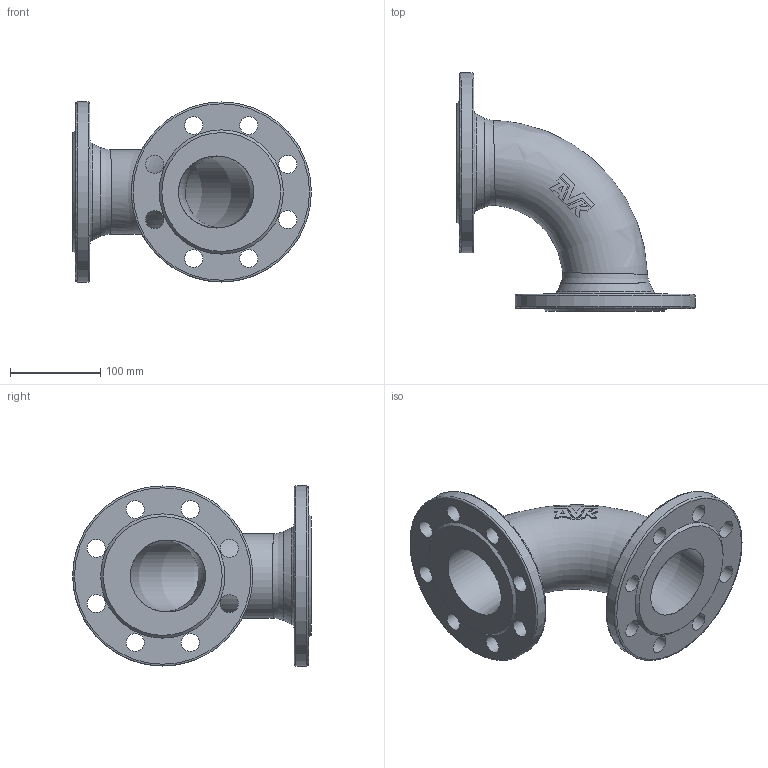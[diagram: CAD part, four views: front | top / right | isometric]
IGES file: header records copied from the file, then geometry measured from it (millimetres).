
Start section: SolidWorks IGES file using analytic representation for surfaces
Global section: file name: \\avksan2\techshare\PBM outline export from Enovia\O_712_0610_DN80_1X_REV01.igs; native system: SolidWorks 2019; preprocessor: SolidWorks 2019; author: pbm; date: 211119.105227; units: millimetre
Bounding box: 265 x 265 x 200 mm (x, y, z)
Surface area: 262317.8 mm2 (no closed solid volume)
Topology: 0 solids, 0 shells, 79 faces, 380 edges, 348 vertices
Faces by surface type: bspline 43, revolution 36
